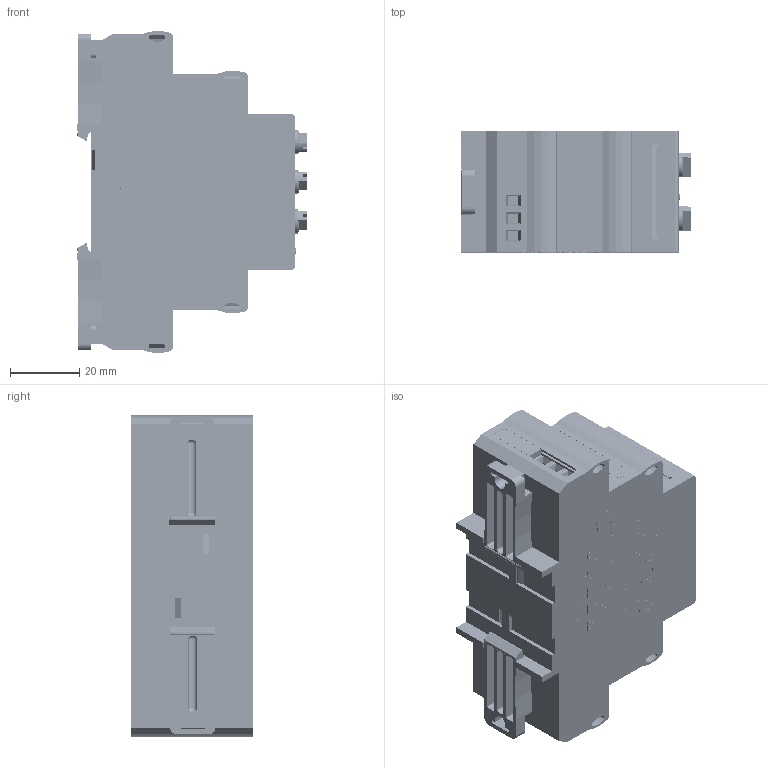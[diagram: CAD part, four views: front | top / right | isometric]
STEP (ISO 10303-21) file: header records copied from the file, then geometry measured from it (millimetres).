
FILE_DESCRIPTION(('STEP AP203'), '1');
FILE_NAME('ﾑ碚濱ﾐﾂﾎ-08', '', ('UNSPECIFIED'), ('UNSPECIFIED'), 'ASCON STEP Converter 1.6', 'ASCON Math Kernel', '');
FILE_SCHEMA(('CONFIG_CONTROL_DESIGN'));
Length unit declared in the file: millimetre
Products named in the file (15): R-knob_2017_Hex2mm__Џｮ гｬｮｫзｭЁо
Assembly tree (27 placements, depth 2):
  (unnamed)
    (unnamed)  x2
    (unnamed)  x2
    (unnamed)  x4
    (unnamed)  x4
    (unnamed)  x2
    (unnamed)
    (unnamed)
    R-knob_2017_Hex2mm__Џｮ гｬｮｫзｭЁо  x5
    (unnamed)
    (unnamed)
    (unnamed)
    (unnamed)
    (unnamed)
    (unnamed)
Bounding box: 66.3 x 35.02 x 92.99 mm (x, y, z)
Volume: 41108.2 mm3; surface area: 55719.9 mm2
Topology: 678 solids, 678 shells, 25808 faces, 72899 edges, 48481 vertices
Faces by surface type: plane 17996, extrusion 7312, cylinder 407, cone 45, torus 36, sphere 8, bspline 4
Full cylindrical faces by diameter (mm): 1.238 x12, 2.1 x2, 2.2 x2, 3.9 x12, 4.5 x5, 5 x5
Entity records: 1024815 total; most frequent: CARTESIAN_POINT 211430, ORIENTED_EDGE 139298, DIRECTION 97299, EDGE_CURVE 69649, VECTOR 61937, LINE 54625, VERTEX_POINT 46413, EDGE_LOOP 25504
